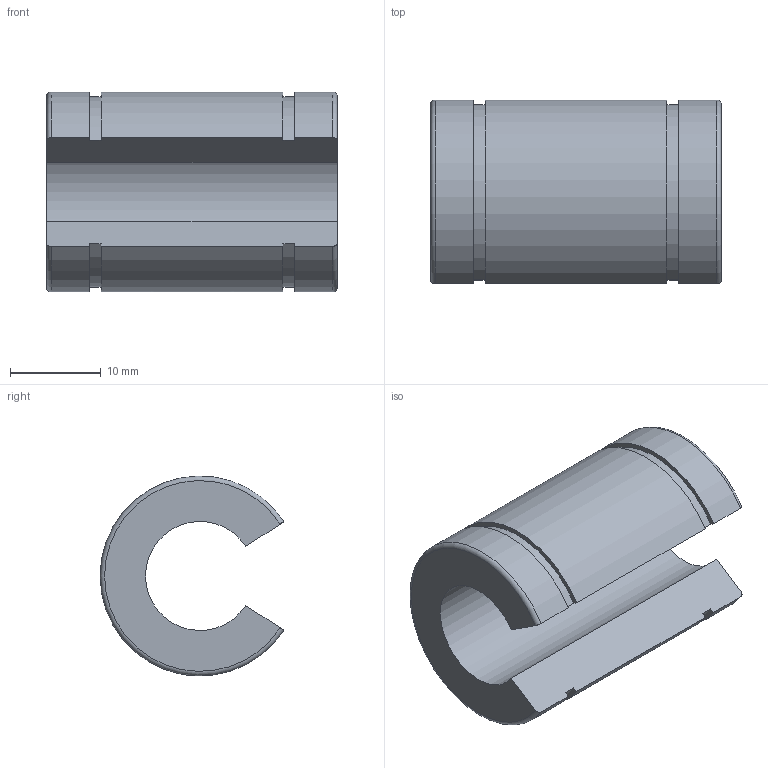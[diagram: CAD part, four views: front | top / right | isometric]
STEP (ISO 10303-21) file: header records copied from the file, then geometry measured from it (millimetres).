
FILE_DESCRIPTION(('STEP AP203'),'1');
FILE_NAME('//192.168.1.1/share/s-4 技術開発/s-4-4_CAD/s-4-4-3_見直し済み/007 修正済み/SB-OP/SB-12OP.step','2022-02-17T01:44:00',(' '),(' '),'Spatial InterOp 3D',' ',' ');
FILE_SCHEMA(('CONFIG_CONTROL_DESIGN'));
Length unit declared in the file: millimetre
Products named in the file (1): 1
Bounding box: 32 x 20.24 x 22 mm (x, y, z)
Volume: 6902.1 mm3; surface area: 3634.3 mm2
Topology: 1 solids, 1 shells, 18 faces, 45 edges, 30 vertices
Faces by surface type: plane 9, cylinder 7, torus 2
Full cylindrical faces by diameter (mm): 3 x1
Entity records: 642 total; most frequent: CARTESIAN_POINT 162, DIRECTION 92, ORIENTED_EDGE 88, EDGE_CURVE 44, AXIS2_PLACEMENT_3D 34, VERTEX_POINT 30, LINE 24, VECTOR 24
